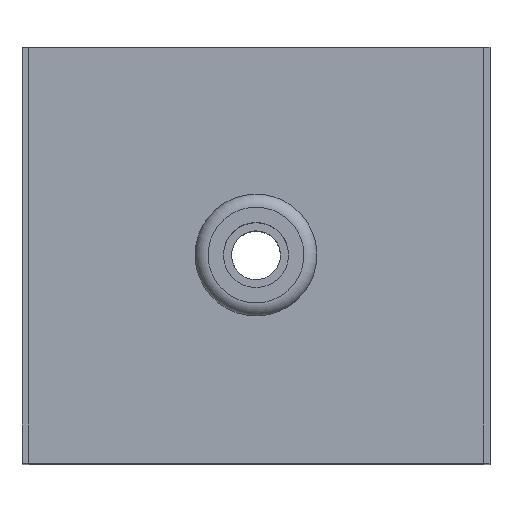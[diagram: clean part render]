
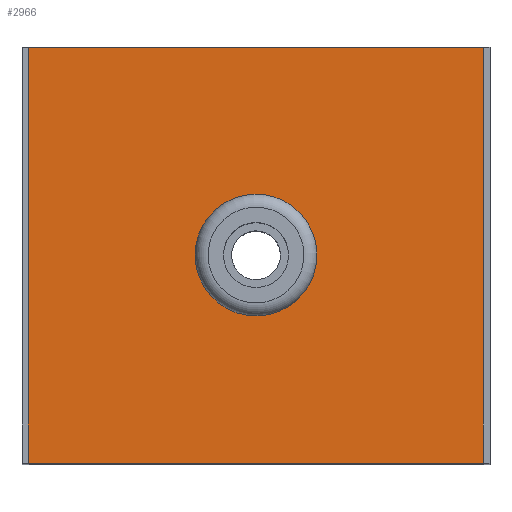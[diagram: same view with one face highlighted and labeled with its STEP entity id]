
A CAD part, top view. The second image highlights one B-rep face of the part: STEP entity #2966.
In plain terms, the highlighted planar face has unit normal (0, 0, 1).
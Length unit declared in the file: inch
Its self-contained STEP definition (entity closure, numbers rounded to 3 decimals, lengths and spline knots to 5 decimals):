
#115=FACE_BOUND('',#617,.T.);
#116=FACE_BOUND('',#618,.T.);
#270=PLANE('',#3208);
#617=EDGE_LOOP('',(#2434));
#618=EDGE_LOOP('',(#2435,#2436,#2437,#2438));
#857=LINE('',#17734,#1071);
#859=LINE('',#17738,#1073);
#860=LINE('',#17740,#1074);
#861=LINE('',#17741,#1075);
#1071=VECTOR('',#3764,8.75);
#1073=VECTOR('',#3768,8.);
#1074=VECTOR('',#3769,8.75);
#1075=VECTOR('',#3770,8.);
#1190=CIRCLE('',#3197,0.9375);
#1413=VERTEX_POINT('',#17695);
#1426=VERTEX_POINT('',#17731);
#1427=VERTEX_POINT('',#17733);
#1428=VERTEX_POINT('',#17737);
#1429=VERTEX_POINT('',#17739);
#1764=EDGE_CURVE('',#1413,#1413,#1190,.T.);
#1782=EDGE_CURVE('',#1427,#1426,#857,.T.);
#1784=EDGE_CURVE('',#1426,#1428,#859,.T.);
#1785=EDGE_CURVE('',#1429,#1428,#860,.T.);
#1786=EDGE_CURVE('',#1427,#1429,#861,.T.);
#2434=ORIENTED_EDGE('',*,*,#1764,.T.);
#2435=ORIENTED_EDGE('',*,*,#1784,.T.);
#2436=ORIENTED_EDGE('',*,*,#1785,.F.);
#2437=ORIENTED_EDGE('',*,*,#1786,.F.);
#2438=ORIENTED_EDGE('',*,*,#1782,.T.);
#2966=ADVANCED_FACE('',(#115,#116),#270,.T.);
#3197=AXIS2_PLACEMENT_3D('',#17696,#3729,#3730);
#3208=AXIS2_PLACEMENT_3D('',#17736,#3766,#3767);
#3729=DIRECTION('center_axis',(0.,0.,-1.));
#3730=DIRECTION('ref_axis',(-1.,0.,0.));
#3764=DIRECTION('',(-1.,0.,0.));
#3766=DIRECTION('center_axis',(0.,0.,1.));
#3767=DIRECTION('ref_axis',(-1.,0.,0.));
#3768=DIRECTION('',(0.,-1.,0.));
#3769=DIRECTION('',(-1.,0.,0.));
#3770=DIRECTION('',(0.,-1.,0.));
#17695=CARTESIAN_POINT('',(-0.9375,0.,0.));
#17696=CARTESIAN_POINT('Origin',(0.,0.,0.));
#17731=CARTESIAN_POINT('',(-4.375,4.,0.));
#17733=CARTESIAN_POINT('',(4.375,4.,0.));
#17734=CARTESIAN_POINT('',(4.375,4.,0.));
#17736=CARTESIAN_POINT('Origin',(4.375,4.,0.));
#17737=CARTESIAN_POINT('',(-4.375,-4.,0.));
#17738=CARTESIAN_POINT('',(-4.375,2.,0.));
#17739=CARTESIAN_POINT('',(4.375,-4.,0.));
#17740=CARTESIAN_POINT('',(4.375,-4.,0.));
#17741=CARTESIAN_POINT('',(4.375,2.,0.));
